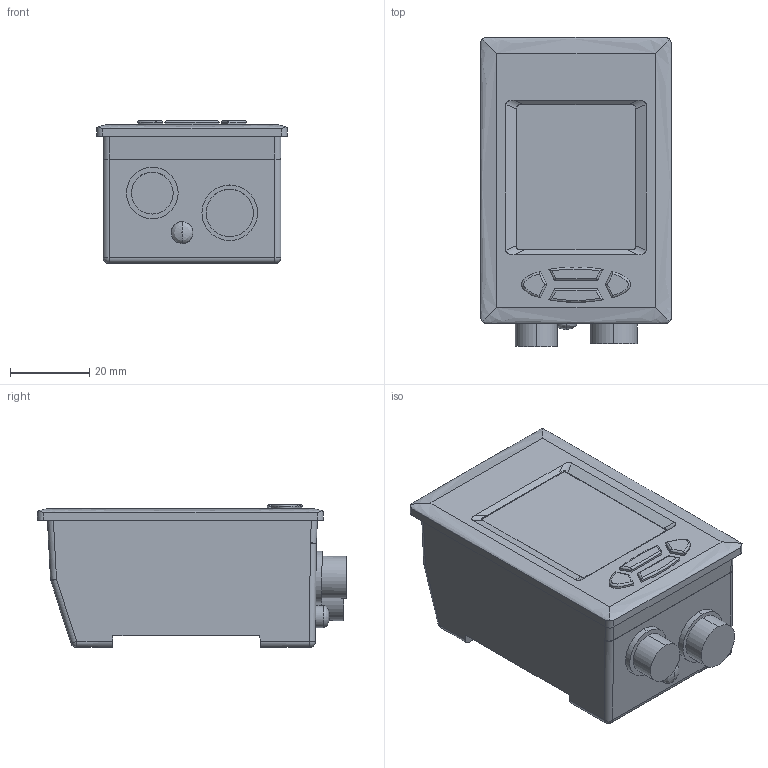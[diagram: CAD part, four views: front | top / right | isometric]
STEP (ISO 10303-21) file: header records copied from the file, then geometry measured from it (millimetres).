
FILE_DESCRIPTION (( 'STEP AP203' ), '1' );
FILE_NAME ('TI-SC.STEP', '2024-01-19T06:01:41', ( '' ), ( '' ), 'SwSTEP 2.0', 'SolidWorks 2022', '' );
FILE_SCHEMA (( 'CONFIG_CONTROL_DESIGN' ));
Length unit declared in the file: millimetre
Products named in the file (1): TI-SC
Bounding box: 48 x 77.82 x 36 mm (x, y, z)
Volume: 99378.5 mm3; surface area: 14846.7 mm2
Topology: 1 solids, 1 shells, 116 faces, 271 edges, 168 vertices
Faces by surface type: cylinder 48, plane 45, bspline 15, sphere 6, torus 2
Entity records: 4298 total; most frequent: CARTESIAN_POINT 1783, ORIENTED_EDGE 542, DIRECTION 449, EDGE_CURVE 271, VERTEX_POINT 168, AXIS2_PLACEMENT_3D 154, VECTOR 141, LINE 141
